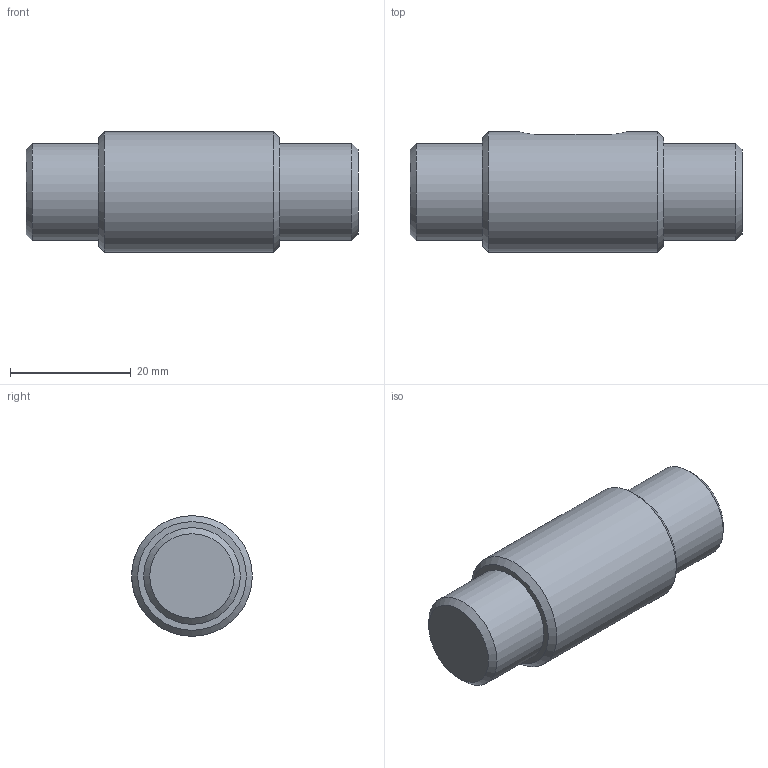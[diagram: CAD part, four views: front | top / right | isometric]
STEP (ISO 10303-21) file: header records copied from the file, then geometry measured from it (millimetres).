
FILE_DESCRIPTION(/* description */ (''),/* implementation_level */ '2;1');
FILE_NAME(/* name */ '',/* time_stamp */ '2026-09-29T15:28:48+09:00',/* author */ ('jhkim'),/* organization */ (''),/* preprocessor_version */ 'ST-DEVELOPER v20.1',/* originating_system */ 'Autodesk Inventor 2027',/* authorisation */ '');
FILE_SCHEMA (('AUTOMOTIVE_DESIGN { 1 0 10303 214 3 1 1 }'));
Length unit declared in the file: millimetre
Products named in the file (1): 종동 축
Bounding box: 55 x 20 x 20 mm (x, y, z)
Volume: 14005.6 mm3; surface area: 3765.4 mm2
Topology: 1 solids, 1 shells, 16 faces, 35 edges, 24 vertices
Faces by surface type: plane 7, cylinder 5, cone 4
Full cylindrical faces by diameter (mm): 16 x2, 20 x1
Entity records: 522 total; most frequent: CARTESIAN_POINT 112, DIRECTION 81, ORIENTED_EDGE 70, EDGE_CURVE 35, AXIS2_PLACEMENT_3D 33, VERTEX_POINT 24, EDGE_LOOP 19, FACE_OUTER_BOUND 16
